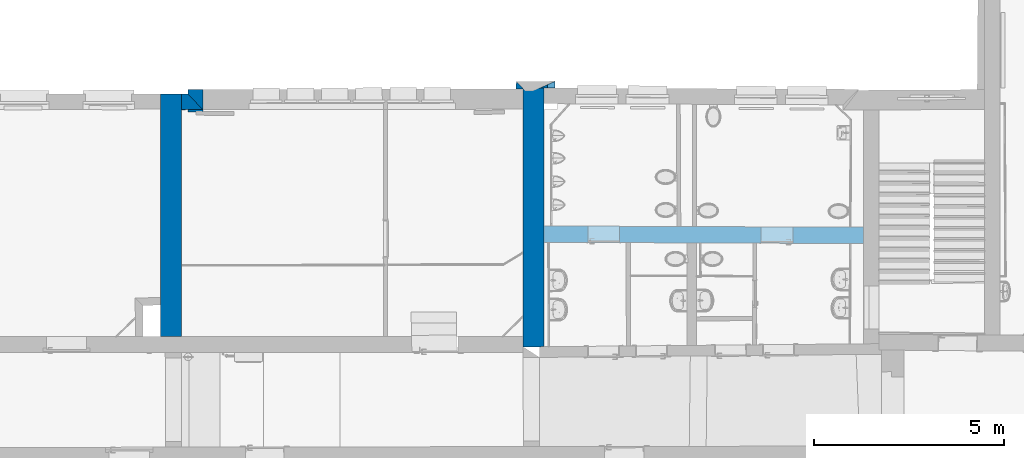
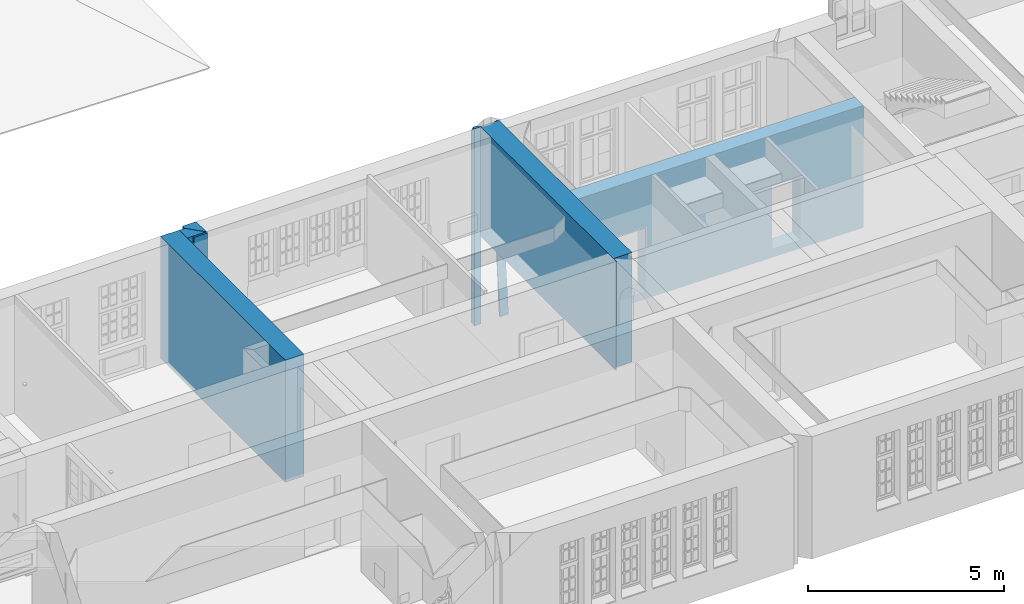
# One storey, part 84 of 158: 6 walls, 2 openings, plus 1 element that does not belong to this part.
"""IFC2X3 building model written with IfcOpenShell, lengths in metres."""

from ifc_helpers import new_model, entity, si_unit, converted_unit, derived_unit, money_unit, direction, frame, origin_with_axes, origin_2d_with_axis, place, context, subcontext, project, spatial, polyline, rectangle, outline, extrude, boolean, faceted_brep, material, type_object, element, save


model = new_model("IFC2X3")

# Units and contexts
model_context = context("Model", 3, precision=1e-05, world=origin_with_axes(), true_north=direction((0.0, 1.0)))
body_context = subcontext(model_context, "Body", "Model", "MODEL_VIEW")
ifc_project = project(units=[si_unit("LENGTHUNIT", "METRE"), si_unit("AREAUNIT", "SQUARE_METRE"), si_unit("VOLUMEUNIT", "CUBIC_METRE"), converted_unit("PLANEANGLEUNIT", "DEGREE", entity("IfcPlaneAngleMeasure", 0.0174532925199), si_unit("PLANEANGLEUNIT", "RADIAN"), dimensions=[0, 0, 0, 0, 0, 0, 0]), money_unit("EUR"), converted_unit("TIMEUNIT", "Year", entity("IfcTimeMeasure", 31556926.0), si_unit("TIMEUNIT", "SECOND"), dimensions=[0, 0, 1, 0, 0, 0, 0]), si_unit("MASSUNIT", "GRAM", prefix="KILO"), si_unit("THERMODYNAMICTEMPERATUREUNIT", "DEGREE_CELSIUS"), si_unit("LUMINOUSINTENSITYUNIT", "LUMEN"), si_unit("ENERGYUNIT", "JOULE", prefix="MEGA"), derived_unit("THERMALCONDUCTANCEUNIT", [(si_unit("POWERUNIT", "WATT"), 1), (si_unit("LENGTHUNIT", "METRE"), -1), (si_unit("THERMODYNAMICTEMPERATUREUNIT", "KELVIN"), -1)]), derived_unit("SPECIFICHEATCAPACITYUNIT", [(si_unit("ENERGYUNIT", "JOULE"), 1), (si_unit("MASSUNIT", "GRAM", prefix="KILO"), -1), (si_unit("THERMODYNAMICTEMPERATUREUNIT", "KELVIN"), -1)]), derived_unit("MASSDENSITYUNIT", [(si_unit("MASSUNIT", "GRAM", prefix="KILO"), 1), (si_unit("VOLUMEUNIT", "CUBIC_METRE"), -1)])], contexts=[model_context])

# Site, building, storey
site_placement = place(None, origin_with_axes())
site = spatial("IfcSite", under=ifc_project, at=site_placement, Name="Gelände", CompositionType="ELEMENT")
building_placement = place(site_placement, origin_with_axes())
building = spatial("IfcBuilding", under=site, at=building_placement, Name="Gebäude", CompositionType="ELEMENT")
storey_placement = place(building_placement, origin_with_axes())
storey = spatial("IfcBuildingStorey", under=building, at=storey_placement, Name="ERDGESCHOSS", CompositionType="ELEMENT", Elevation=0.0)

# Walls
ifc_material = material(Name="05_ALLGEMEIN - TRAGENDE BAUTEILE")
wall_type_1 = type_object("IfcWallType", Name="05_ALLGEMEIN - TRAGENDE BAUTEILE 400", PredefinedType="ELEMENTEDWALL")
wall_1_placement = place(storey_placement, frame((3.73053516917, 26.1880653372, -0.210000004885), z_axis=(0.0, 0.0, 1.0), x_axis=(0.0, -1.0, 0.0)))
element("IfcWall", 1, at=wall_1_placement, inside=storey, type_object=wall_type_1, material=ifc_material, Name="Wand-037", ObjectType="ELEMENTEDWALL", context=body_context, shape_type="CSG", body=[
    boolean("DIFFERENCE", extrude(outline(polyline([(-0.000666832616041, 0.0), (0.585000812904, 0.0), (0.585000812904, 0.4), (-0.000666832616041, 0.4), (-0.000666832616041, 0.0)])), origin_with_axes(), (0.0, 0.0, 1.0), 3.81000000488), faceted_brep([(0.0, 0.0, 3.81000000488), (0.529333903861, 0.4, 3.81000000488), (-0.000666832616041, 0.4, 3.81000000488), (-0.000666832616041, 0.0, 3.81000000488), (0.0, 0.0, 0.685000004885), (0.529333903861, 0.4, 0.685000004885), (0.585000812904, 0.4, 3.81000000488), (0.585000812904, 0.4, 0.0), (-0.000666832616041, 0.4, 0.0), (-0.000666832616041, 0.0, 0.0), (0.0744615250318, 0.0, 0.0), (0.0744615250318, 0.0, 0.685000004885), (0.0744615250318, 0.0509718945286, 0.685000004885), (0.397003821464, 0.271765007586, 0.685000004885), (0.529334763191, 0.3994845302, 0.685000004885), (0.529334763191, 0.3994845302, 3.81000000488), (0.585000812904, 0.0, 3.81000000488), (0.585000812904, 0.0, 0.0), (0.0744615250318, 0.0509718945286, 0.0), (0.115426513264, 0.0, 0.0), (0.397003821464, 0.271765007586, 0.0), (0.115426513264, 0.0, 3.81000000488)], [[[0, 1, 2, 3]], [[1, 0, 4, 5]], [[6, 7, 8, 2, 1]], [[2, 8, 9, 3]], [[4, 0, 3, 9, 10, 11]], [[4, 11, 12, 13, 14, 5]], [[15, 1, 5, 14]], [[16, 17, 7, 6]], [[18, 10, 9, 8, 7, 17, 19, 20]], [[15, 21, 16, 6, 1]], [[10, 18, 12, 11]], [[18, 20, 13, 12]], [[21, 15, 14, 13, 20, 19]], [[21, 19, 17, 16]]])),
])
wall_type_2 = type_object("IfcWallType", Name="05_ALLGEMEIN - TRAGENDE BAUTEILE 250", PredefinedType="ELEMENTEDWALL")
wall_2_placement = place(storey_placement, frame((13.3787544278, 26.2262206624, -2.55030771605), z_axis=(0.0, 0.0, 1.0), x_axis=(0.0191304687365, 0.999816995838, 0.0)))
element("IfcWall", 2, at=wall_2_placement, inside=storey, type_object=wall_type_2, material=ifc_material, Name="Wand-038", ObjectType="ELEMENTEDWALL", context=body_context, shape_type="CSG", body=[
    boolean("DIFFERENCE", extrude(outline(polyline([(0.0, 0.0), (0.25032649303, 0.0), (0.564754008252, 6.15030771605), (0.314427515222, 6.15030771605), (0.0, 0.0)])), frame((-0.00612743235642, 0.0, 0.0), z_axis=(1.0, 0.0, 0.0), x_axis=(0.0, 1.0, 0.0)), (0.0, 0.0, 1.0), 0.18701479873), faceted_brep([(0.0345170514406, 0.314427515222, 6.15030771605), (0.180887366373, 0.0, 0.0), (0.180887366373, 0.314427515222, 6.15030771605), (0.0643569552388, 0.25032649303, 0.0), (-0.00610743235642, 0.401695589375, 6.15030771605), (-0.00610743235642, 0.401695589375, 2.96083032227), (0.180887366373, 0.25032649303, 0.0), (0.180887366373, 0.564754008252, 6.15030771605), (-0.00612743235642, 0.564754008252, 6.15030771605), (-0.00612743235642, 0.314427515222, 6.15030771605), (-0.00478059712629, 0.314427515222, 6.15030771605), (0.0, 0.0, 0.0), (-0.0038059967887, 0.25032649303, 0.0), (-0.00612743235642, 0.25032649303, 0.0), (-0.00612743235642, 0.0, 0.0)], [[[0, 1, 2]], [[3, 1, 0, 4, 5]], [[2, 1, 6, 7]], [[4, 0, 2, 7, 8, 9, 10]], [[1, 3, 6]], [[10, 11, 12, 5, 4]], [[5, 12, 13, 8, 7, 6, 3]], [[13, 14, 9, 8]], [[11, 10, 9, 14]], [[12, 11, 14, 13]]])),
])
wall_3_placement = place(storey_placement, frame((12.3676178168, 26.4034292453, -2.55030771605), z_axis=(0.0, 0.0, 1.0), x_axis=(-0.0798824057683, -0.996804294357, 0.0)))
element("IfcWall", 3, at=wall_3_placement, inside=storey, type_object=wall_type_2, material=ifc_material, Name="Wand-040", ObjectType="ELEMENTEDWALL", context=body_context, shape_type="CSG", body=[
    boolean("DIFFERENCE", extrude(outline(polyline([(-0.0209389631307, 0.0), (0.773541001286, 0.0), (0.773541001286, 0.25), (-0.0209389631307, 0.25), (-0.0209389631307, 0.0)])), origin_with_axes(), (0.0, 0.0, 1.0), 6.15030771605), faceted_brep([(0.112065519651, 0.0, 6.15030771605), (0.103538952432, 0.112573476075, 6.15030771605), (0.185164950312, 0.201321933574, 6.15030771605), (0.201636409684, 0.0, 6.15030771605), (0.773541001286, 0.0, 6.15030771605), (0.773541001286, 0.25, 6.15030771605), (-0.0209389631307, 0.25, 6.15030771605), (-0.0209389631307, 0.0, 6.15030771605), (0.00521342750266, 0.0, 5.96014982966), (0.00482121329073, 0.00524189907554, 5.96015840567), (0.0, 0.0, 5.9630634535), (0.0, 0.0, 0.0), (0.185164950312, 0.201321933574, 0.0), (0.201636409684, 0.0, 0.0), (0.773541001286, 0.0, 0.0), (0.773541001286, 0.25, 0.0), (-0.0209389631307, 0.25, 0.0), (-0.0209389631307, 0.0, 0.0)], [[[0, 1, 2, 3, 4, 5, 6, 7]], [[1, 0, 8, 9]], [[2, 1, 9, 10, 11, 12]], [[3, 2, 12, 13]], [[3, 13, 14, 4]], [[4, 14, 15, 5]], [[5, 15, 16, 6]], [[6, 16, 17, 7]], [[8, 0, 7, 17, 11, 10]], [[8, 10, 9]], [[12, 11, 17, 16, 15, 14, 13]]])),
])

# Wall, openings
wall_type_3 = type_object("IfcWallType", Name="05_ALLGEMEIN - TRAGENDE BAUTEILE 430", PredefinedType="ELEMENTEDWALL")
wall_4_placement = place(storey_placement, frame((12.5396494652, 22.1758858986, -0.210000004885), z_axis=(0.0, 0.0, 1.0), x_axis=(0.999992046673, -0.0039883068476, 0.0)))
wall_4 = element("IfcWall", 4, at=wall_4_placement, inside=storey, type_object=wall_type_3, material=ifc_material, Name="Wand-039", ObjectType="ELEMENTEDWALL", context=body_context, shape_type="CSG", body=[
    boolean("DIFFERENCE", boolean("DIFFERENCE", extrude(outline(polyline([(-0.0018147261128, 0.0), (9.3577466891, 0.0), (9.3577466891, 0.43), (-0.0018147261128, 0.43), (-0.0018147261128, 0.0)])), origin_with_axes(), (0.0, 0.0, 1.0), 3.81000000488), faceted_brep([(0.550004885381, 0.0, 2.78243494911e-09), (0.550004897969, 0.0, 3.81000000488), (-0.0018147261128, 0.0, 3.81000000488), (-0.0018147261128, 0.0, 0.0), (0.548190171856, 0.43, 3.81000000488), (0.548190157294, 0.43, 2.48720399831e-09), (-0.0018147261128, 0.43, 3.81000000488), (-0.0018147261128, 0.43, 0.0)], [[[0, 1, 2, 3]], [[4, 1, 0, 5]], [[1, 4, 6, 2]], [[6, 7, 3, 2]], [[5, 0, 3, 7]], [[4, 5, 7, 6]]])), faceted_brep([(8.94659090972, 0.43, 0.0), (8.94659090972, 0.43, 3.81000000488), (9.3577466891, 0.43, 3.81000000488), (9.3577466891, 0.43, 0.0), (8.94774521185, 0.0, 3.81000000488), (8.94774521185, 0.0, 0.0), (9.3577466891, 0.0, 3.81000000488), (9.3577466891, 0.0, 0.0)], [[[0, 1, 2, 3]], [[4, 1, 0, 5]], [[1, 4, 6, 2]], [[6, 7, 3, 2]], [[5, 0, 3, 7]], [[4, 5, 7, 6]]])),
])
opening_1_placement = place(wall_4_placement, frame((2.12348208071, 0.0, 0.220000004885), z_axis=(0.0, 0.0, 1.0), x_axis=(1.0, 0.0, 0.0)))
element("IfcOpeningElement", 5, at=opening_1_placement, cuts=wall_4, Name="Tür-022", context=body_context, shape_type="SweptSolid", body=[
    extrude(rectangle(XDim=0.829850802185, YDim=2.00684416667, at=origin_2d_with_axis()), frame((0.0, -0.43, 1.00342208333), z_axis=(0.0, -1.0, 0.0), x_axis=(1.0, 0.0, 0.0)), (0.0, 0.0, -1.0), 1.29),
])
opening_2_placement = place(wall_4_placement, frame((6.67496092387, 0.0, 0.250000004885), z_axis=(0.0, 0.0, 1.0), x_axis=(1.0, 0.0, 0.0)))
element("IfcOpeningElement", 6, at=opening_2_placement, cuts=wall_4, Name="Tür-022", context=body_context, shape_type="SweptSolid", body=[
    extrude(rectangle(XDim=0.832133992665, YDim=1.97475383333, at=origin_2d_with_axis()), frame((0.0, -0.43, 0.987376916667), z_axis=(0.0, 1.0, 0.0), x_axis=(-1.0, 0.0, 0.0)), (0.0, 0.0, 1.0), 1.29),
])

# Walls
wall_type_4 = type_object("IfcWallType", Name="05_ALLGEMEIN - TRAGENDE BAUTEILE 550", PredefinedType="ELEMENTEDWALL")
wall_5_placement = place(storey_placement, frame((3.56576405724, 19.2785874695, -0.210000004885), z_axis=(0.0, 0.0, 1.0), x_axis=(0.000261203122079, 0.999999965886, 0.0)))
element("IfcWall", 7, at=wall_5_placement, inside=storey, type_object=wall_type_4, material=ifc_material, Name="Wand-038", ObjectType="ELEMENTEDWALL", context=body_context, shape_type="CSG", body=[
    boolean("DIFFERENCE", boolean("DIFFERENCE", boolean("DIFFERENCE", extrude(outline(polyline([(-0.000303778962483, 0.0), (6.79382417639, 0.0), (6.79382417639, 0.55), (-0.000303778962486, 0.55), (-0.000303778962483, 0.0)])), origin_with_axes(), (0.0, 0.0, 1.0), 3.81000000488), faceted_brep([(0.414615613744, 0.0, 0.0), (0.414615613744, 0.0, 3.81000000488), (-0.000303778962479, 0.0, 3.81000000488), (-0.000303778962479, 0.0, 0.0), (0.414311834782, 0.55, 3.81000000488), (0.414311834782, 0.55, 0.0), (-0.000303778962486, 0.55, 3.81000000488), (-0.000303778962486, 0.55, 0.0)], [[[0, 1, 2, 3]], [[4, 1, 0, 5]], [[1, 4, 6, 2]], [[6, 7, 3, 2]], [[5, 0, 3, 7]], [[4, 5, 7, 6]]])), faceted_brep([(4.60108823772, 0.0, 0.400000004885), (4.60108823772, 0.0, 0.0), (6.38955963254, 0.0, 0.0), (6.38955963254, 0.0, 0.400000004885), (4.60107729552, 0.00843892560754, 0.400000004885), (4.60107729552, 0.00843892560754, 0.0), (6.38954568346, 0.0107579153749, 0.0), (6.38954568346, 0.0107579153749, 0.400000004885)], [[[0, 1, 2, 3]], [[1, 0, 4, 5]], [[6, 2, 1, 5]], [[3, 2, 6, 7]], [[0, 3, 7, 4]], [[6, 5, 4, 7]]])), faceted_brep([(6.79291316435, 0.55, 3.81000000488), (6.79382417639, 0.0, 3.81000000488), (6.79382417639, 0.55, 3.81000000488), (6.79382417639, 0.0, 0.0), (6.79291316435, 0.55, 0.0), (6.79382417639, 0.55, 0.0)], [[[0, 1, 2]], [[3, 1, 0, 4]], [[1, 3, 5, 2]], [[4, 0, 2, 5]], [[3, 4, 5]]])),
])
wall_6_placement = place(storey_placement, frame((12.5403208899, 19.2812001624, 0.18), z_axis=(0.0, 0.0, 1.0), x_axis=(-0.000231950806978, 0.999999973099, 0.0)))
element("IfcWall", 8, at=wall_6_placement, inside=storey, type_object=wall_type_4, material=ifc_material, Name="Wand-038", ObjectType="ELEMENTEDWALL", context=body_context, shape_type="CSG", body=[
    boolean("DIFFERENCE", boolean("DIFFERENCE", boolean("DIFFERENCE", extrude(outline(polyline([(0.0, -0.55), (6.94832096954, -0.55), (6.94832096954, 0.0), (0.0, 0.0), (0.0, -0.55)])), origin_with_axes(), (0.0, 0.0, 1.0), 3.42), faceted_brep([(6.3515256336, 0.0, 0.0), (6.35153078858, -0.00360308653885, 0.0), (0.421456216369, -0.00725307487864, 0.0), (0.421453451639, 0.0, 0.0), (6.3515256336, 0.0, 0.295), (6.35153078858, -0.00360308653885, 0.295), (0.421456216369, -0.00725307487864, 0.295), (0.421453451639, 0.0, 0.295)], [[[0, 1, 2, 3]], [[1, 0, 4, 5]], [[2, 1, 5, 6]], [[3, 2, 6, 7]], [[4, 0, 3, 7]], [[4, 7, 6, 5]]])), faceted_brep([(6.94832096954, 0.0, 3.42), (6.94603261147, -0.55, 3.42), (6.94832096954, -0.55, 3.42), (6.94603261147, -0.55, 0.0), (6.94832096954, 0.0, 0.0), (6.94832096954, -0.55, 0.0)], [[[0, 1, 2]], [[3, 1, 0, 4]], [[1, 3, 5, 2]], [[4, 0, 2, 5]], [[3, 4, 5]]])), faceted_brep([(0.148249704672, -0.55, 0.0), (0.148249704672, -0.55, 3.42), (0.0, -0.55, 3.42), (0.0, -0.55, 0.0), (0.147250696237, -0.43733429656, 3.42), (0.147250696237, -0.43733429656, 0.0), (0.143430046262, -0.00645083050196, 3.42), (3.83860477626e-07, -0.00648726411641, 3.42), (3.83860477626e-07, -0.00648726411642, 0.0), (0.143430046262, -0.00645083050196, 0.0)], [[[0, 1, 2, 3]], [[4, 1, 0, 5]], [[6, 7, 2, 1, 4]], [[7, 8, 3, 2]], [[5, 0, 3, 8, 9]], [[6, 4, 5, 9]], [[7, 6, 9, 8]]])),
])
wall_type_5 = type_object("IfcWallType", Name="05_ALLGEMEIN - TRAGENDE BAUTEILE 415", PredefinedType="ELEMENTEDWALL")
wall_7_placement = place(storey_placement, frame((3.73053516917, 26.072638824, -0.210000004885), z_axis=(0.0, 0.0, 1.0), x_axis=(-0.999999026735, -0.00139518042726, 0.0)))
element("IfcWall", 9, at=wall_7_placement, inside=storey, type_object=wall_type_5, material=ifc_material, Name="Wand-030", ObjectType="ELEMENTEDWALL", context=body_context, shape_type="CSG", body=[
    boolean("DIFFERENCE", extrude(outline(polyline([(-0.400000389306, 0.0), (0.713684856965, 0.0), (0.713684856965, 0.415), (-0.400000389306, 0.415), (-0.400000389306, 0.0)])), origin_with_axes(), (0.0, 0.0, 1.0), 3.81000000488), faceted_brep([(0.163683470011, 0.414618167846, 3.81000000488), (0.162996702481, 0.0, 3.81000000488), (0.713684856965, 0.0, 3.81000000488), (0.713684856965, 0.415, 3.81000000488), (-0.400000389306, 0.415, 3.81000000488), (-0.400000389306, 0.0, 3.81000000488), (0.0, 0.0, 3.81000000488), (-0.398906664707, 0.414465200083, 3.81000000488), (0.162996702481, 0.0, 0.0), (0.163683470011, 0.414618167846, 3.62500000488), (0.163683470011, 0.414618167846, 3.52500000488), (0.163683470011, 0.414618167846, 0.980000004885), (0.163683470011, 0.414618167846, 0.685000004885), (0.163684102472, 0.415, 0.685000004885), (0.163684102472, 0.415, 0.0), (0.713684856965, 0.0, 0.0), (0.713684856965, 0.415, 0.0), (0.116669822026, 0.415, 0.400000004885), (0.116669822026, 0.415, 0.0), (-0.400000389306, 0.415, 0.0), (-0.362173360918, 0.415, 0.685000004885), (-0.362173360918, 0.415, 0.400000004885), (-0.400000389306, 0.0, 0.0), (0.0, 0.0, 0.0), (-0.271371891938, 0.281956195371, 0.0), (-0.271371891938, 0.281956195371, 0.685000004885), (-0.398906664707, 0.414465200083, 0.685000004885), (-0.36181524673, 0.414475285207, 0.685000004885), (0.116672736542, 0.404280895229, 0.400000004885), (0.116672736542, 0.404280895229, 0.0), (-0.354770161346, 0.404152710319, 0.0), (-0.354770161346, 0.404152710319, 0.400000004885)], [[[0, 1, 2, 3, 4, 5, 6, 7]], [[8, 1, 0, 9, 10, 11, 12, 13, 14]], [[1, 8, 15, 2]], [[2, 15, 16, 3]], [[17, 18, 19, 4, 3, 16, 14, 13, 20, 21]], [[4, 19, 22, 5]], [[23, 6, 5, 22]], [[7, 6, 23, 24, 25, 26]], [[0, 7, 26, 27, 12, 11, 10, 9]], [[20, 13, 12, 27]], [[8, 14, 16, 15]], [[18, 17, 28, 29]], [[24, 23, 22, 19, 18, 29, 30]], [[21, 20, 27, 25, 24, 30, 31]], [[17, 21, 31, 28]], [[25, 27, 26]], [[30, 29, 28, 31]]])),
])

save(model, "model.ifc")
